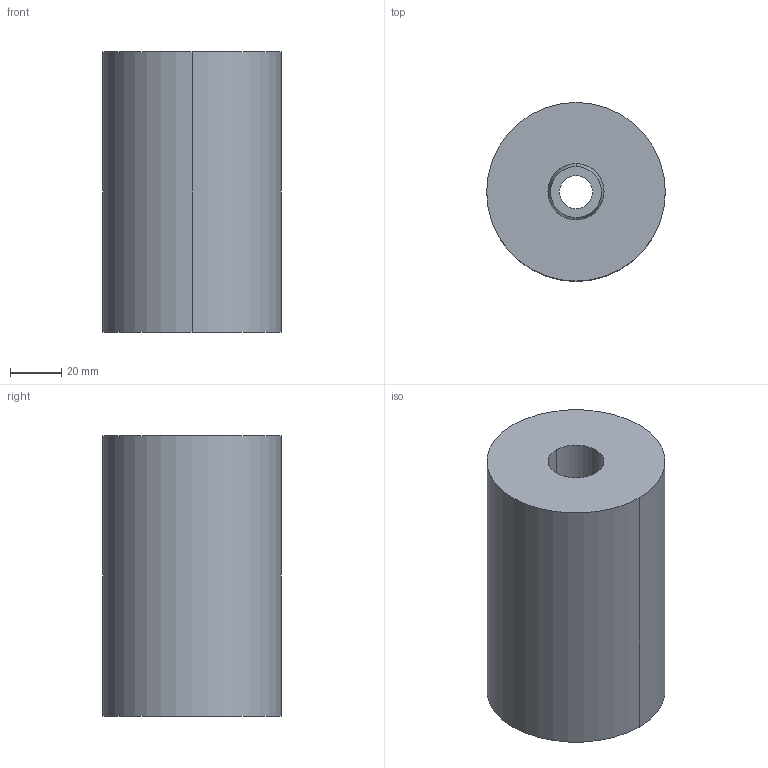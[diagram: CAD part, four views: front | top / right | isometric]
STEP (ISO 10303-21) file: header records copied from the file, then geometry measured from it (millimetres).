
FILE_DESCRIPTION(/* description */ (''),/* implementation_level */ '2;1');
FILE_NAME(/* name */ '3d_esu7022110_07038_r00.stp',/* time_stamp */ '2011-01-10T14:15:39+09:00',/* author */ ('MISUMI'),/* organization */ (''),/* preprocessor_version */ 'ST-DEVELOPER v11',/* originating_system */ 'UGS - NX 5.0',/* authorisation */ '');
FILE_SCHEMA (('CONFIG_CONTROL_DESIGN'));
Length unit declared in the file: millimetre
Products named in the file (1): 3d_esu7022110_07038_r00
Bounding box: 70 x 70 x 110 mm (x, y, z)
Volume: 391011.8 mm3; surface area: 42697.4 mm2
Topology: 2 solids, 2 shells, 18 faces, 36 edges, 22 vertices
Faces by surface type: cylinder 10, plane 4, cone 4
Entity records: 566 total; most frequent: DIRECTION 96, CARTESIAN_POINT 77, ORIENTED_EDGE 72, AXIS2_PLACEMENT_3D 41, EDGE_CURVE 36, EDGE_LOOP 22, CIRCLE 22, VERTEX_POINT 22
